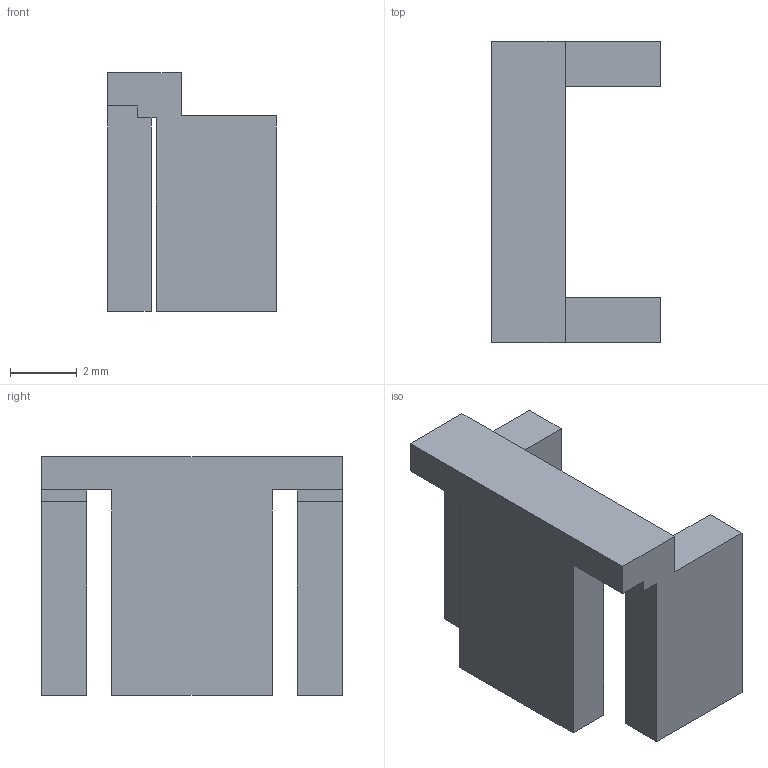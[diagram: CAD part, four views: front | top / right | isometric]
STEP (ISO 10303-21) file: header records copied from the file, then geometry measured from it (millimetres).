
FILE_DESCRIPTION(/* description */ (''),/* implementation_level */ '2;1');
FILE_NAME(/* name */ 'P10.step',/* time_stamp */ '2026-09-14T14:49:33-07:00',/* author */ (''),/* organization */ (''),/* preprocessor_version */ 'ST-DEVELOPER v20.1',/* originating_system */ 'Autodesk Translation Framework v15.8.0.0',/* authorisation */ '');
FILE_SCHEMA (('AUTOMOTIVE_DESIGN { 1 0 10303 214 3 1 1 }'));
Length unit declared in the file: millimetre
Products named in the file (1): 2026-09-14-14-49-33-166
Bounding box: 5.05 x 9 x 7.15 mm (x, y, z)
Volume: 116.1 mm3; surface area: 271.5 mm2
Topology: 1 solids, 1 shells, 24 faces, 66 edges, 44 vertices
Faces by surface type: plane 24
Entity records: 783 total; most frequent: CARTESIAN_POINT 135, ORIENTED_EDGE 132, DIRECTION 116, LINE 66, VECTOR 66, EDGE_CURVE 66, VERTEX_POINT 44, AXIS2_PLACEMENT_3D 25
